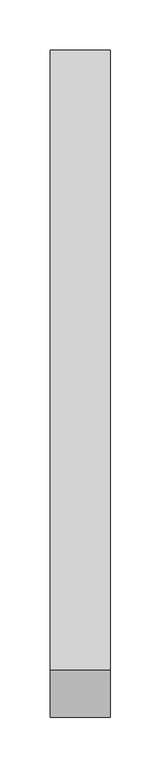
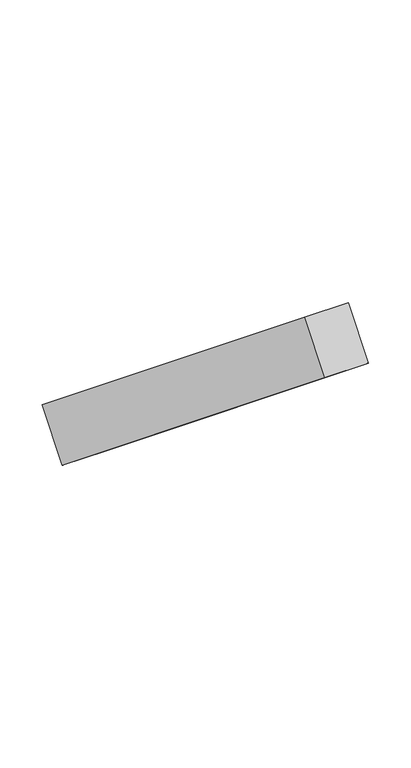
"""IFC4 building model written with IfcOpenShell, lengths in millimetres: proxy geometry, Брус 6 : Брус 3."""

from ifc_helpers import new_model, si_unit, frame, origin, place, context, project, spatial, polyline, outline, extrude, source, transform, mapped, element, save


def generic_models_ce911dc9(model_context):
    return source(origin(), model_context, "Body", "SweptSolid", [
        extrude(outline(polyline([(0.0, -795.0), (0.0, 0.0), (60.0, 0.0), (60.0, -795.0), (0.0, -795.0)])), frame((5505.0, 22958.385451, 504.4153424), z_axis=(0.0, 0.6293203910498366, 0.7771459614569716), x_axis=(-1.0, 0.0, 0.0)), (0.0, 0.0, 1.0), 75.0),
    ])


if __name__ == "__main__":
    model = new_model("IFC4")
    model_context = context("Model", 3, world=origin())
    ifc_project = project(units=[si_unit("LENGTHUNIT", "METRE", prefix="MILLI")], contexts=[model_context])
    site = spatial("IfcSite", under=ifc_project)
    building = spatial("IfcBuilding", under=site)
    placement = place(None, origin())
    generic_models_shape = generic_models_ce911dc9(model_context)
    element("IfcBuildingElementProxy", 1, Name="Брус 6 : Брус 3", ObjectType="Брус 6 : Брус 3", at=placement, inside=building, context=model_context, shape_type="MappedRepresentation", body=[
        mapped(generic_models_shape, transform((0.0, 0.0, 0.0), x_axis=(1.0, 0.0, 0.0), y_axis=(0.0, 1.0, 0.0), z_axis=(0.0, 0.0, 1.0))),
    ])
    save(model, "model.ifc")
